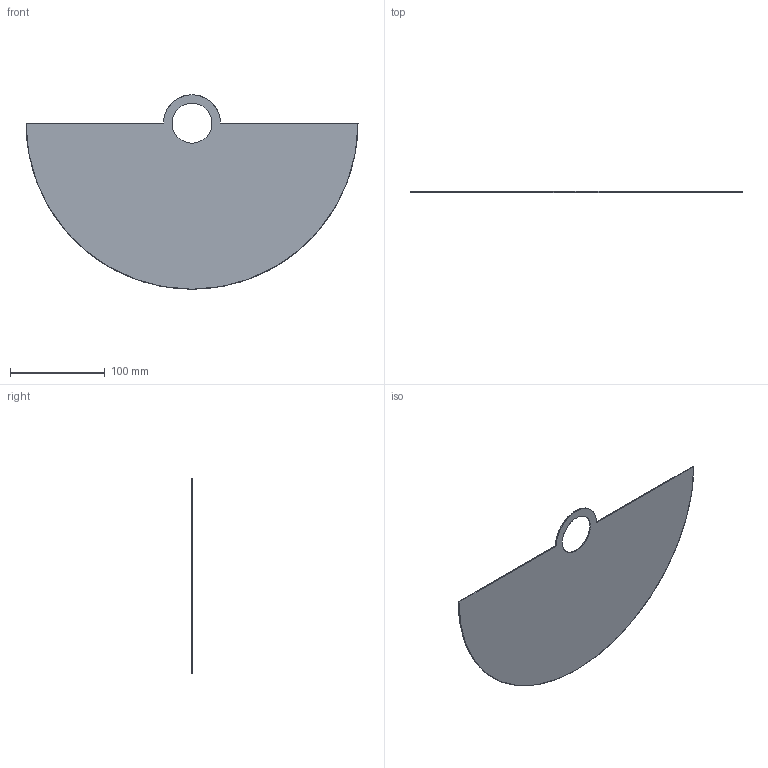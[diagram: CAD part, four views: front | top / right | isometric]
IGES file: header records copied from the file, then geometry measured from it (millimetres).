
Start section: SolidWorks IGES file using analytic representation for surfaces
Global section: file name: C:\Users\Agus\Desktop\incorporar\1088\35\1088-35.IGS; native system: SolidWorks 2018; preprocessor: SolidWorks 2018; author: Agus; date: 190315.132152; units: millimetre
Bounding box: 350 x 1 x 205 mm (x, y, z)
Surface area: 97333.9 mm2 (no closed solid volume)
Topology: 0 solids, 0 shells, 9 faces, 192 edges, 192 vertices
Faces by surface type: revolution 5, bspline 4
